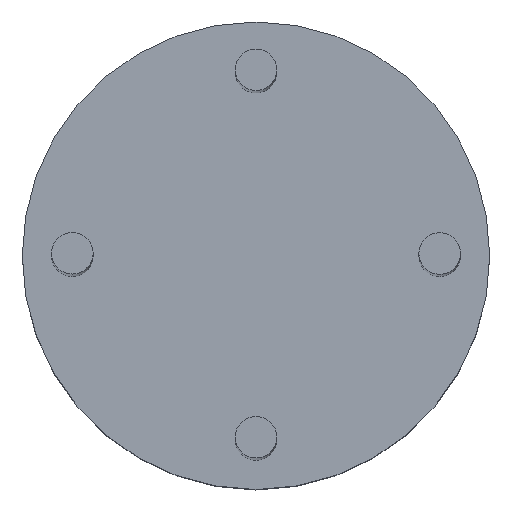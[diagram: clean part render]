
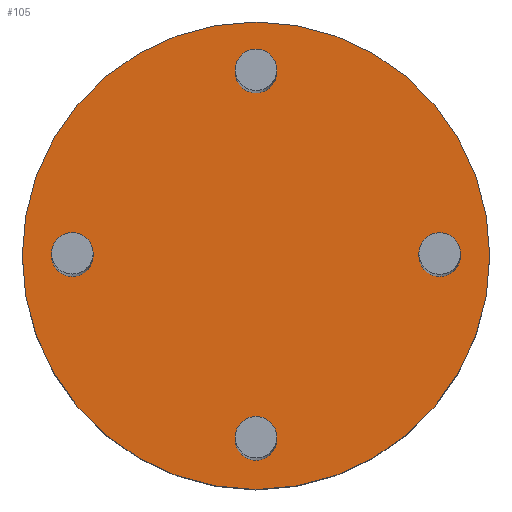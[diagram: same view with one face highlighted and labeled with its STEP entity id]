
A CAD part, top view. The second image highlights one B-rep face of the part: STEP entity #105.
In plain terms, the highlighted planar face has unit normal (0, 0, 1).
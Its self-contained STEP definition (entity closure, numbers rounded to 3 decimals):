
#105=ADVANCED_FACE('',(#122,#123,#124,#125,#126),#116,.T.);
#116=PLANE('',#213);
#122=FACE_BOUND('',#137,.T.);
#123=FACE_BOUND('',#138,.T.);
#124=FACE_BOUND('',#139,.T.);
#125=FACE_BOUND('',#140,.T.);
#126=FACE_BOUND('',#141,.T.);
#137=EDGE_LOOP('',(#157));
#138=EDGE_LOOP('',(#158));
#139=EDGE_LOOP('',(#159));
#140=EDGE_LOOP('',(#160));
#141=EDGE_LOOP('',(#161));
#157=ORIENTED_EDGE('',*,*,#187,.F.);
#158=ORIENTED_EDGE('',*,*,#188,.F.);
#159=ORIENTED_EDGE('',*,*,#189,.F.);
#160=ORIENTED_EDGE('',*,*,#190,.F.);
#161=ORIENTED_EDGE('',*,*,#191,.F.);
#177=VERTEX_POINT('',#275);
#178=VERTEX_POINT('',#277);
#179=VERTEX_POINT('',#279);
#180=VERTEX_POINT('',#281);
#181=VERTEX_POINT('',#283);
#187=EDGE_CURVE('',#177,#177,#197,.T.);
#188=EDGE_CURVE('',#178,#178,#198,.T.);
#189=EDGE_CURVE('',#179,#179,#199,.T.);
#190=EDGE_CURVE('',#180,#180,#200,.T.);
#191=EDGE_CURVE('',#181,#181,#201,.T.);
#197=CIRCLE('',#208,0.4);
#198=CIRCLE('',#209,0.4);
#199=CIRCLE('',#210,4.5);
#200=CIRCLE('',#211,0.4);
#201=CIRCLE('',#212,0.4);
#208=AXIS2_PLACEMENT_3D('',#274,#231,#232);
#209=AXIS2_PLACEMENT_3D('',#276,#233,#234);
#210=AXIS2_PLACEMENT_3D('',#278,#235,#236);
#211=AXIS2_PLACEMENT_3D('',#280,#237,#238);
#212=AXIS2_PLACEMENT_3D('',#282,#239,#240);
#213=AXIS2_PLACEMENT_3D('',#284,#241,#242);
#231=DIRECTION('',(0.,0.,1.));
#232=DIRECTION('',(0.,-1.,0.));
#233=DIRECTION('',(0.,0.,1.));
#234=DIRECTION('',(0.,1.,0.));
#235=DIRECTION('',(0.,0.,-1.));
#236=DIRECTION('',(-1.,0.,0.));
#237=DIRECTION('',(0.,0.,1.));
#238=DIRECTION('',(-1.,0.,0.));
#239=DIRECTION('',(0.,0.,1.));
#240=DIRECTION('',(1.,0.,0.));
#241=DIRECTION('',(0.,0.,1.));
#242=DIRECTION('',(1.,0.,0.));
#274=CARTESIAN_POINT('',(0.,3.536,5.1));
#275=CARTESIAN_POINT('',(0.,3.136,5.1));
#276=CARTESIAN_POINT('',(0.,-3.536,5.1));
#277=CARTESIAN_POINT('',(0.,-3.136,5.1));
#278=CARTESIAN_POINT('',(0.,0.,5.1));
#279=CARTESIAN_POINT('',(-4.5,0.,5.1));
#280=CARTESIAN_POINT('',(3.536,0.,5.1));
#281=CARTESIAN_POINT('',(3.136,0.,5.1));
#282=CARTESIAN_POINT('',(-3.536,0.,5.1));
#283=CARTESIAN_POINT('',(-3.136,0.,5.1));
#284=CARTESIAN_POINT('',(0.,0.,5.1));
